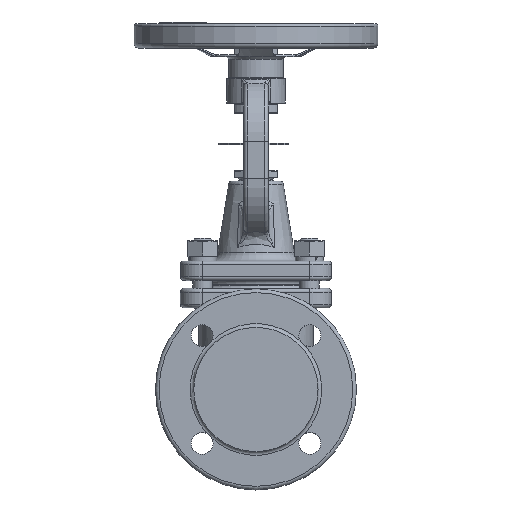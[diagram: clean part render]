
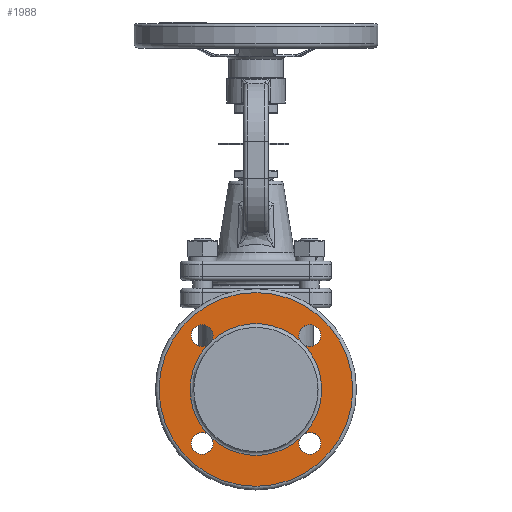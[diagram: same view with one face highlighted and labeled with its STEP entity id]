
A CAD part, front view. The second image highlights one B-rep face of the part: STEP entity #1988.
In plain terms, the highlighted planar face has unit normal (0, -1, 0).
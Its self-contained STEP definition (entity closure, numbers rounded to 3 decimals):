
#1988=ADVANCED_FACE('',(#3146,#3147),#2795,.F.);
#2795=PLANE('',#13148);
#3146=FACE_BOUND('',#3498,.T.);
#3147=FACE_BOUND('',#3499,.T.);
#3498=EDGE_LOOP('',(#5724));
#3499=EDGE_LOOP('',(#5725,#5726,#5727,#5728,#5729,#5730,#5731,#5732));
#5724=ORIENTED_EDGE('',*,*,#10643,.T.);
#5725=ORIENTED_EDGE('',*,*,#10644,.F.);
#5726=ORIENTED_EDGE('',*,*,#10645,.T.);
#5727=ORIENTED_EDGE('',*,*,#10646,.T.);
#5728=ORIENTED_EDGE('',*,*,#10647,.T.);
#5729=ORIENTED_EDGE('',*,*,#10648,.F.);
#5730=ORIENTED_EDGE('',*,*,#10649,.T.);
#5731=ORIENTED_EDGE('',*,*,#10650,.T.);
#5732=ORIENTED_EDGE('',*,*,#10651,.T.);
#9447=VERTEX_POINT('',#19987);
#9448=VERTEX_POINT('',#19989);
#9449=VERTEX_POINT('',#19990);
#9450=VERTEX_POINT('',#19992);
#9451=VERTEX_POINT('',#19994);
#9452=VERTEX_POINT('',#19996);
#9453=VERTEX_POINT('',#19998);
#9454=VERTEX_POINT('',#20000);
#9455=VERTEX_POINT('',#20002);
#10643=EDGE_CURVE('',#9447,#9447,#12452,.T.);
#10644=EDGE_CURVE('',#9448,#9449,#12453,.T.);
#10645=EDGE_CURVE('',#9448,#9450,#12454,.T.);
#10646=EDGE_CURVE('',#9450,#9451,#12455,.T.);
#10647=EDGE_CURVE('',#9451,#9452,#12456,.T.);
#10648=EDGE_CURVE('',#9453,#9452,#12457,.T.);
#10649=EDGE_CURVE('',#9453,#9454,#12458,.T.);
#10650=EDGE_CURVE('',#9454,#9455,#12459,.T.);
#10651=EDGE_CURVE('',#9455,#9449,#12460,.T.);
#12452=CIRCLE('',#13139,79.5);
#12453=CIRCLE('',#13140,9.);
#12454=CIRCLE('',#13141,54.);
#12455=CIRCLE('',#13142,9.);
#12456=CIRCLE('',#13143,54.);
#12457=CIRCLE('',#13144,9.);
#12458=CIRCLE('',#13145,54.);
#12459=CIRCLE('',#13146,9.);
#12460=CIRCLE('',#13147,54.);
#13139=AXIS2_PLACEMENT_3D('',#19986,#14621,#14622);
#13140=AXIS2_PLACEMENT_3D('',#19988,#14623,#14624);
#13141=AXIS2_PLACEMENT_3D('',#19991,#14625,#14626);
#13142=AXIS2_PLACEMENT_3D('',#19993,#14627,#14628);
#13143=AXIS2_PLACEMENT_3D('',#19995,#14629,#14630);
#13144=AXIS2_PLACEMENT_3D('',#19997,#14631,#14632);
#13145=AXIS2_PLACEMENT_3D('',#19999,#14633,#14634);
#13146=AXIS2_PLACEMENT_3D('',#20001,#14635,#14636);
#13147=AXIS2_PLACEMENT_3D('',#20003,#14637,#14638);
#13148=AXIS2_PLACEMENT_3D('',#20004,#14639,#14640);
#14621=DIRECTION('',(0.,-1.,0.));
#14622=DIRECTION('',(-1.,0.,0.));
#14623=DIRECTION('',(0.,-1.,0.));
#14624=DIRECTION('',(-1.,0.,0.));
#14625=DIRECTION('',(0.,1.,0.));
#14626=DIRECTION('',(-1.,0.,0.));
#14627=DIRECTION('',(0.,1.,0.));
#14628=DIRECTION('',(-1.,0.,0.));
#14629=DIRECTION('',(0.,1.,0.));
#14630=DIRECTION('',(-1.,0.,0.));
#14631=DIRECTION('',(0.,-1.,0.));
#14632=DIRECTION('',(-1.,0.,0.));
#14633=DIRECTION('',(0.,1.,0.));
#14634=DIRECTION('',(-1.,0.,0.));
#14635=DIRECTION('',(0.,1.,0.));
#14636=DIRECTION('',(-1.,0.,0.));
#14637=DIRECTION('',(0.,1.,0.));
#14638=DIRECTION('',(-1.,0.,0.));
#14639=DIRECTION('',(0.,1.,0.));
#14640=DIRECTION('',(-1.,0.,0.));
#19986=CARTESIAN_POINT('',(0.,-110.25,0.46));
#19987=CARTESIAN_POINT('',(-79.5,-110.25,0.46));
#19988=CARTESIAN_POINT('',(44.194,-110.25,-43.735));
#19989=CARTESIAN_POINT('',(36.191,-110.25,-39.618));
#19990=CARTESIAN_POINT('',(40.078,-110.25,-35.731));
#19991=CARTESIAN_POINT('',(0.,-110.25,0.46));
#19992=CARTESIAN_POINT('',(-36.191,-110.25,-39.618));
#19993=CARTESIAN_POINT('',(-44.194,-110.25,-43.735));
#19994=CARTESIAN_POINT('',(-40.078,-110.25,-35.731));
#19995=CARTESIAN_POINT('',(0.,-110.25,0.46));
#19996=CARTESIAN_POINT('',(-40.078,-110.25,36.65));
#19997=CARTESIAN_POINT('',(-44.194,-110.25,44.654));
#19998=CARTESIAN_POINT('',(-36.191,-110.25,40.537));
#19999=CARTESIAN_POINT('',(0.,-110.25,0.46));
#20000=CARTESIAN_POINT('',(36.191,-110.25,40.537));
#20001=CARTESIAN_POINT('',(44.194,-110.25,44.654));
#20002=CARTESIAN_POINT('',(40.078,-110.25,36.65));
#20003=CARTESIAN_POINT('',(0.,-110.25,0.46));
#20004=CARTESIAN_POINT('',(0.,-110.25,51.46));
